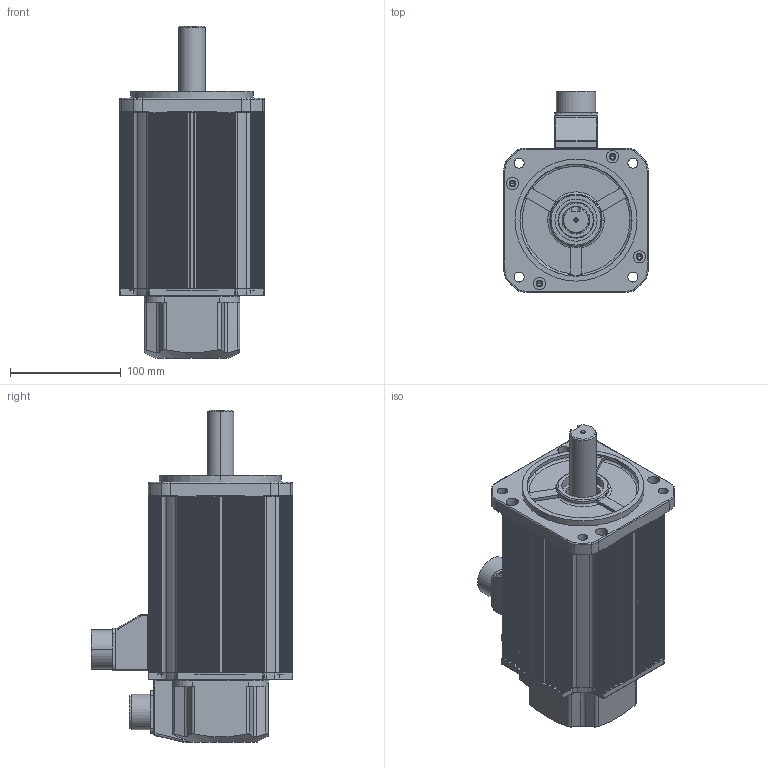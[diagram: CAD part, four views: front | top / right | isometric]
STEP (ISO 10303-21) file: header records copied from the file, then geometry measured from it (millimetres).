
FILE_DESCRIPTION (( 'STEP AP214' ), '1' );
FILE_NAME ('KAND-25B¡à1N2.STEP', '2026-09-12T01:50:44', ( '' ), ( '' ), 'SwSTEP 2.0', 'SolidWorks 2023', '' );
FILE_SCHEMA (( 'AUTOMOTIVE_DESIGN' ));
Length unit declared in the file: millimetre
Products named in the file (11): □130 BRACKET_BR; Ø24-KEY8X51; KAND-25B□1N2; 1005052200 ENCODER COVER; 10050579 CONNECTOR BOX_MS20; □130-159mm; 10050511 RUBBER SEAL_MS20; MS3102A 20_표준; MS3102A 20-29P; 10050523 GASKET_돌출형; □130 FLANGE
Assembly tree (10 placements, depth 2):
  KAND-25B□1N2
    □130-159mm
    □130 FLANGE
    □130 BRACKET_BR
    1005052200 ENCODER COVER
    10050523 GASKET_돌출형
    10050579 CONNECTOR BOX_MS20
    10050511 RUBBER SEAL_MS20
    MS3102A 20-29P
    MS3102A 20_표준
    Ø24-KEY8X51
Bounding box: 130 x 181.75 x 299.2 mm (x, y, z)
Volume: 739953.2 mm3; surface area: 399949 mm2
Topology: 10 solids, 10 shells, 2456 faces, 6821 edges, 4411 vertices
Faces by surface type: plane 1162, cylinder 966, torus 181, bspline 83, cone 54, sphere 10
Entity records: 82617 total; most frequent: CARTESIAN_POINT 18523, ORIENTED_EDGE 13514, DIRECTION 13490, EDGE_CURVE 6757, AXIS2_PLACEMENT_3D 4734, VERTEX_POINT 4411, VECTOR 4022, LINE 4022
